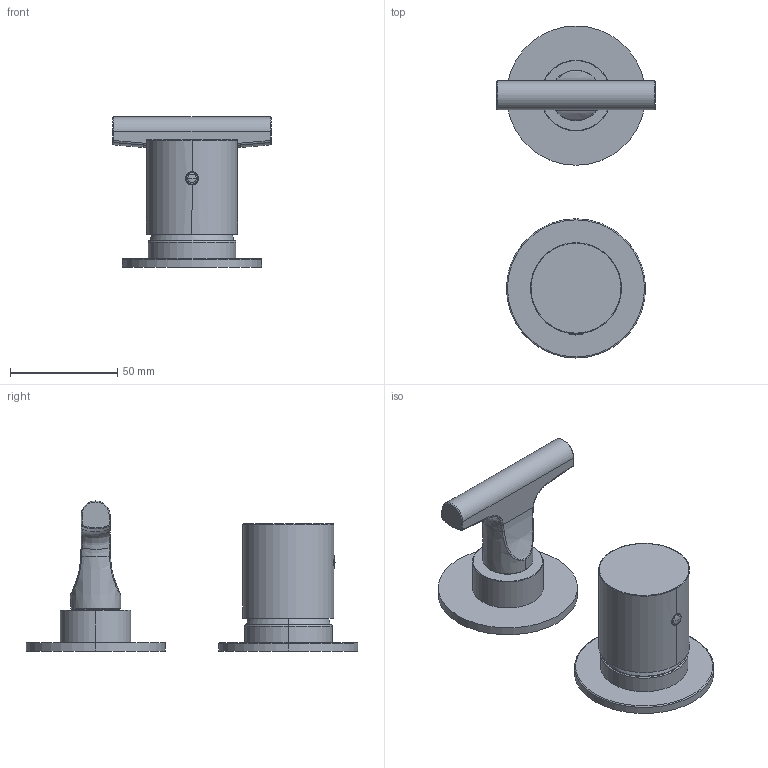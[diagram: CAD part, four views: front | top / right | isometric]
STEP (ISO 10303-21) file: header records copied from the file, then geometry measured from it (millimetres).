
FILE_DESCRIPTION((''),'2;1');
FILE_NAME('67000J087B000000_SW0001','2025-02-11T14:00:48',('cristian.dorz'),(''),'CREO PARAMETRIC BY PTC INC, 2022281','CREO PARAMETRIC BY PTC INC, 2022281','');
FILE_SCHEMA(('AUTOMOTIVE_DESIGN { 1 0 10303 214 1 1 1 1 }'));
Length unit declared in the file: millimetre
Products named in the file (1): 67000J087B000000_SW0001
Bounding box: 74 x 155 x 70.1 mm (x, y, z)
Volume: 140542.8 mm3; surface area: 32079.5 mm2
Topology: 2 solids, 4 shells, 127 faces, 286 edges, 172 vertices
Faces by surface type: cylinder 38, bspline 36, plane 26, torus 14, cone 9, sphere 2, extrusion 2
Entity records: 9349 total; most frequent: CARTESIAN_POINT 5683, ORIENTED_EDGE 568, DIRECTION 530, EDGE_CURVE 284, AXIS2_PLACEMENT_3D 224, VERTEX_POINT 172, EDGE_LOOP 140, FACE_OUTER_BOUND 127
